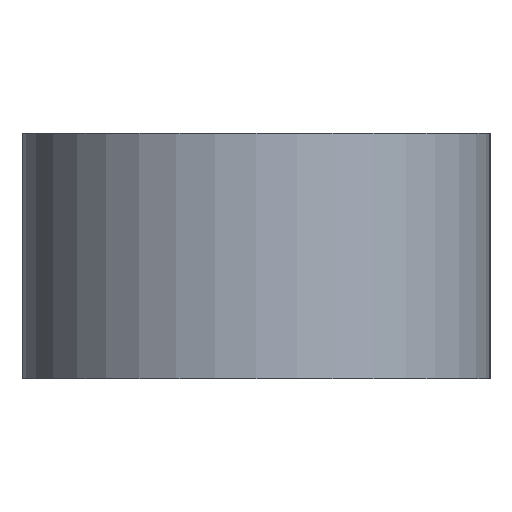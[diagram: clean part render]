
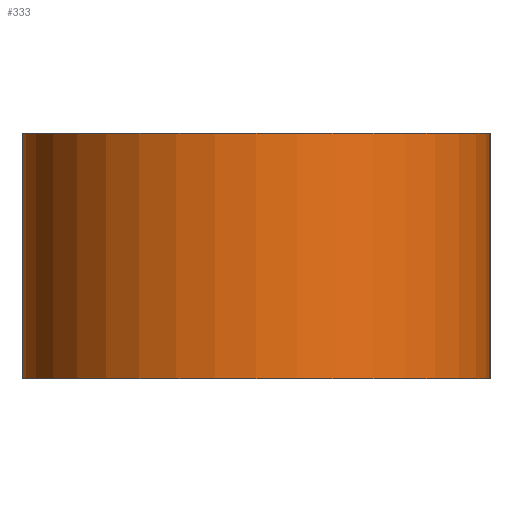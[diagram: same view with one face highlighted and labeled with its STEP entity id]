
A CAD part, left-side view. The second image highlights one B-rep face of the part: STEP entity #333.
In plain terms, the highlighted cylindrical face has radius 6 mm (diameter 12 mm), a partial arc.
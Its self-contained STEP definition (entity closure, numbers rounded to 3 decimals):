
#31=CYLINDRICAL_SURFACE('',#390,6.);
#55=FACE_OUTER_BOUND('',#78,.T.);
#78=EDGE_LOOP('',(#293,#294,#295,#296));
#93=CIRCLE('',#373,6.);
#103=CIRCLE('',#391,6.);
#127=LINE('',#575,#153);
#128=LINE('',#579,#154);
#153=VECTOR('',#480,10.);
#154=VECTOR('',#485,10.);
#170=VERTEX_POINT('',#535);
#171=VERTEX_POINT('',#537);
#181=VERTEX_POINT('',#571);
#183=VERTEX_POINT('',#577);
#204=EDGE_CURVE('',#170,#171,#93,.T.);
#223=EDGE_CURVE('',#181,#171,#127,.T.);
#224=EDGE_CURVE('',#183,#181,#103,.T.);
#225=EDGE_CURVE('',#183,#170,#128,.T.);
#293=ORIENTED_EDGE('',*,*,#224,.T.);
#294=ORIENTED_EDGE('',*,*,#223,.T.);
#295=ORIENTED_EDGE('',*,*,#204,.F.);
#296=ORIENTED_EDGE('',*,*,#225,.F.);
#333=ADVANCED_FACE('',(#55),#31,.T.);
#373=AXIS2_PLACEMENT_3D('',#538,#437,#438);
#390=AXIS2_PLACEMENT_3D('',#576,#481,#482);
#391=AXIS2_PLACEMENT_3D('',#578,#483,#484);
#437=DIRECTION('center_axis',(0.,0.,1.));
#438=DIRECTION('ref_axis',(0.,1.,0.));
#480=DIRECTION('',(0.,0.,1.));
#481=DIRECTION('center_axis',(0.,0.,1.));
#482=DIRECTION('ref_axis',(0.,1.,0.));
#483=DIRECTION('center_axis',(0.,0.,1.));
#484=DIRECTION('ref_axis',(0.,1.,0.));
#485=DIRECTION('',(0.,0.,1.));
#535=CARTESIAN_POINT('',(-35.,6.,6.3));
#537=CARTESIAN_POINT('',(-35.,-6.,6.3));
#538=CARTESIAN_POINT('Origin',(-35.,0.,6.3));
#571=CARTESIAN_POINT('',(-35.,-6.,0.));
#575=CARTESIAN_POINT('',(-35.,-6.,0.));
#576=CARTESIAN_POINT('Origin',(-35.,0.,0.));
#577=CARTESIAN_POINT('',(-35.,6.,0.));
#578=CARTESIAN_POINT('Origin',(-35.,0.,0.));
#579=CARTESIAN_POINT('',(-35.,6.,0.));
